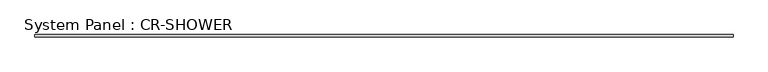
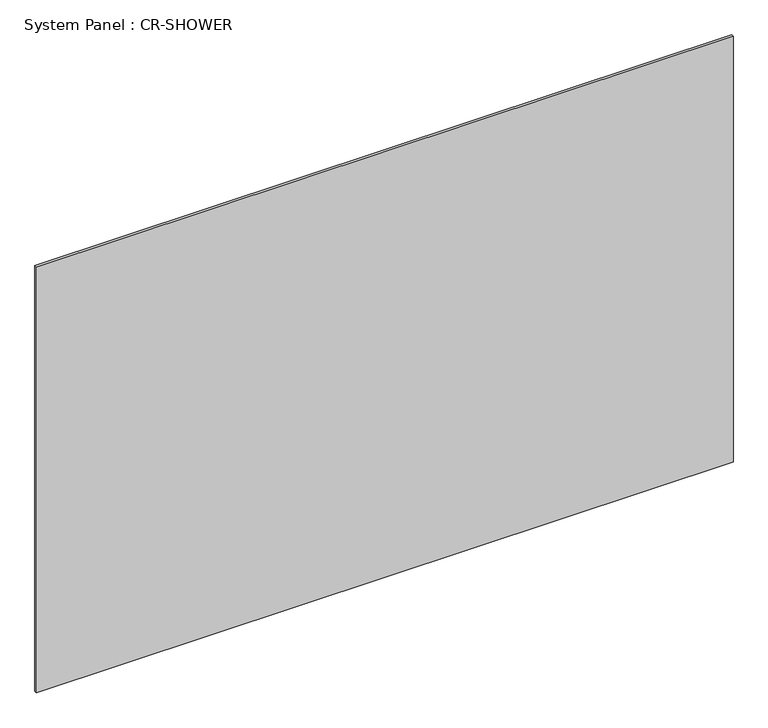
"""IFC4 building model written with IfcOpenShell, lengths in millimetres: plate geometry, System Panel : CR-SHOWER."""

from ifc_helpers import new_model, si_unit, origin, origin_with_axes, place, context, project, spatial, polyline, outline, extrude, source, transform, mapped, element, save


def system_panel_cr_shower_cfc948e8(model_context):
    return source(origin(), model_context, "Body", "SweptSolid", [
        extrude(outline(polyline([(1740.0, -0.05), (-1740.0, -0.05), (-1740.0, 12.45), (1740.0, 12.45), (1740.0, -0.05)])), origin_with_axes(), (0.0, 0.0, 1.0), 2250.0),
    ])


if __name__ == "__main__":
    model = new_model("IFC4")
    model_context = context("Model", 3, world=origin())
    ifc_project = project(units=[si_unit("LENGTHUNIT", "METRE", prefix="MILLI")], contexts=[model_context])
    site = spatial("IfcSite", under=ifc_project)
    building = spatial("IfcBuilding", under=site)
    placement = place(None, origin())
    system_panel_cr_shower_shape = system_panel_cr_shower_cfc948e8(model_context)
    element("IfcPlate", 1, ObjectType="System Panel : CR-SHOWER", at=placement, inside=building, context=model_context, shape_type="MappedRepresentation", body=[
        mapped(system_panel_cr_shower_shape, transform((0.0, 0.0, 0.0), x_axis=(1.0, 0.0, 0.0), y_axis=(0.0, 1.0, 0.0), z_axis=(0.0, 0.0, 1.0))),
    ])
    save(model, "model.ifc")
